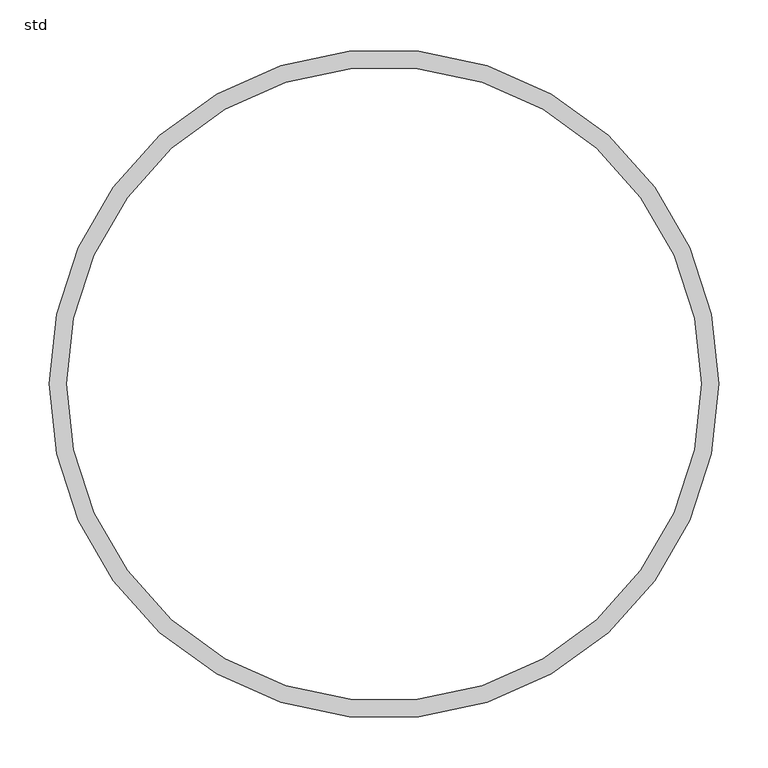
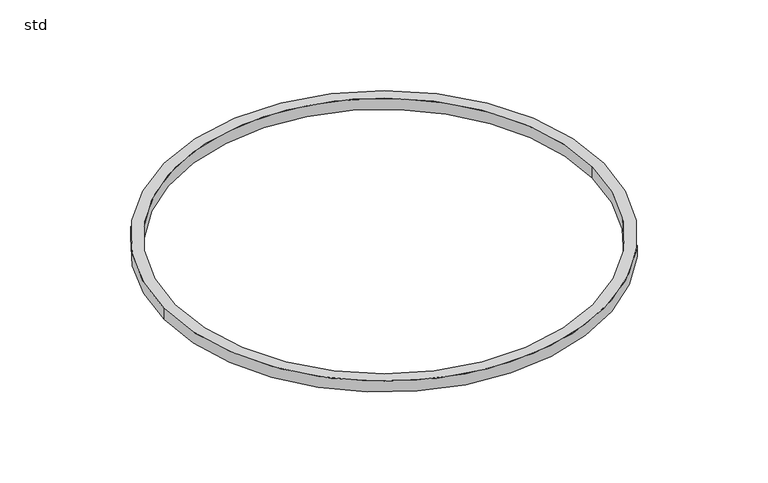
"""IFC4 building model written with IfcOpenShell, lengths in millimetres: pipe fitting geometry, NLRS_52_PIF_WPB_Ultra Kyma dichtingsring SH_Dyka : std."""

from ifc_helpers import new_model, si_unit, point, origin, origin_with_axes, origin_2d, place, context, project, spatial, circle_curve, trimmed, segment, composite_curve, outline, extrude, source, transform, mapped, element, save


def std_340dc9f4(model_context):
    return source(origin(), model_context, "Body", "SweptSolid", [
        extrude(outline(composite_curve([segment(trimmed(circle_curve(origin_2d(), 340.0), [point((-340.0, 0.0))], [point((340.0, 0.0))], False, "CARTESIAN"), True, "CONTINUOUS"), segment(trimmed(circle_curve(origin_2d(), 340.0), [point((340.0, 0.0))], [point((-340.0, 0.0))], False, "CARTESIAN"), True, "CONTINUOUS")], self_intersect=False), holes=[composite_curve([segment(trimmed(circle_curve(origin_2d(), 322.0), [point((322.0, 0.0))], [point((-322.0, 0.0))], True, "CARTESIAN"), True, "CONTINUOUS"), segment(trimmed(circle_curve(origin_2d(), 322.0), [point((-322.0, 0.0))], [point((322.0, 0.0))], True, "CARTESIAN"), True, "CONTINUOUS")], self_intersect=False)]), origin_with_axes(), (0.0, 0.0, 1.0), 18.0),
    ])


if __name__ == "__main__":
    model = new_model("IFC4")
    model_context = context("Model", 3, world=origin())
    ifc_project = project(units=[si_unit("LENGTHUNIT", "METRE", prefix="MILLI")], contexts=[model_context])
    site = spatial("IfcSite", under=ifc_project)
    building = spatial("IfcBuilding", under=site)
    placement = place(None, origin())
    std_shape = std_340dc9f4(model_context)
    element("IfcPipeFitting", 1, ObjectType="NLRS_52_PIF_WPB_Ultra Kyma dichtingsring SH_Dyka : std", at=placement, inside=building, context=model_context, shape_type="MappedRepresentation", body=[
        mapped(std_shape, transform((0.0, 0.0, 0.0), x_axis=(1.0, 0.0, 0.0), y_axis=(0.0, 1.0, 0.0), z_axis=(0.0, 0.0, 1.0))),
    ])
    save(model, "model.ifc")
